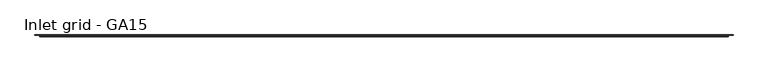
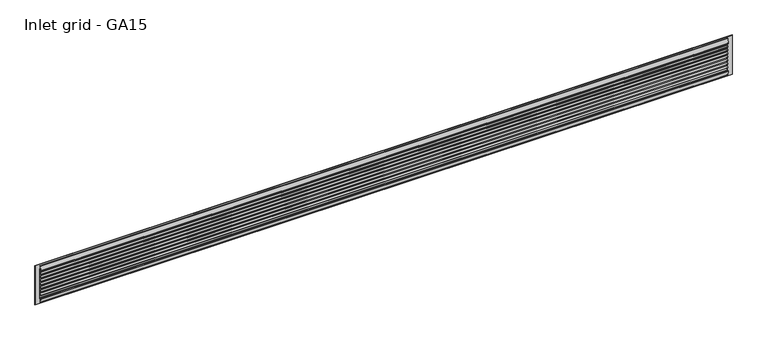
"""IFC4 building model written with IfcOpenShell, lengths in millimetres: proxy geometry, HVAC_Accessories_Emmeti_Grid-GA : Inlet grid - GA15."""

from ifc_helpers import new_model, si_unit, point, frame, frame_2d, origin, place, context, project, spatial, polyline, circle_curve, trimmed, segment, composite_curve, outline, extrude, source, transform, mapped, element, save


def inlet_grid_ga15_4a61f467(model_context):
    return source(origin(), model_context, "Body", "SweptSolid", [
        extrude(outline(composite_curve([segment(polyline([(-4.732363, 150.0), (0.0, 150.0), (0.0, 142.5976564), (-4.272988, 142.5976564)]), True, "CONTINUOUS"), segment(trimmed(circle_curve(frame_2d((-4.272988, 146.0976564)), 3.5), [point((-4.272988, 142.5976564))], [point((-7.772988, 146.0976564))], False, "CARTESIAN"), True, "CONTINUOUS"), segment(polyline([(-7.772988, 146.0976564), (-3.1350602, 163.4898854)]), True, "CONTINUOUS"), segment(trimmed(circle_curve(frame_2d((-1.9313102, 163.1688853)), 1.245815), [point((-3.1350602, 163.4898854))], [point((-1.0, 163.9963613))], False, "CARTESIAN"), True, "CONTINUOUS"), segment(polyline([(-1.0, 163.9963613), (-4.732363, 150.0)]), True, "CONTINUOUS")], self_intersect=False)), frame((-2555.0, 0.0, 0.0), z_axis=(1.0, 0.0, 0.0), x_axis=(0.0, 1.0, 0.0)), (0.0, 0.0, 1.0), 2835.0),
        extrude(outline(composite_curve([segment(polyline([(0.0, 127.5116343), (-6.0, 127.5116343)]), True, "CONTINUOUS"), segment(trimmed(circle_curve(frame_2d((-4.0, 127.5116343)), 2.0), [point((-6.0, 127.5116343))], [point((-5.6369786, 128.6606778))], False, "CARTESIAN"), True, "CONTINUOUS"), segment(trimmed(circle_curve(frame_2d((9.0945217, 118.5661561)), 17.8582326), [point((-5.6369786, 128.6606778))], [point((-1.0, 133.2976564))], False, "CARTESIAN"), True, "CONTINUOUS"), segment(polyline([(-1.0, 133.2976564), (0.0, 133.2976564), (0.0, 127.5116343)]), True, "CONTINUOUS")], self_intersect=False)), frame((-2555.0, 0.0, 0.0), z_axis=(1.0, 0.0, 0.0), x_axis=(0.0, 1.0, 0.0)), (0.0, 0.0, 1.0), 2835.0),
        extrude(outline(composite_curve([segment(polyline([(0.0, 112.4256122), (-6.0, 112.4256122)]), True, "CONTINUOUS"), segment(trimmed(circle_curve(frame_2d((-4.0, 112.4256122)), 2.0), [point((-6.0, 112.4256122))], [point((-5.6369786, 113.5746557))], False, "CARTESIAN"), True, "CONTINUOUS"), segment(trimmed(circle_curve(frame_2d((9.0945217, 103.480134)), 17.8582326), [point((-5.6369786, 113.5746557))], [point((-1.0, 118.2116343))], False, "CARTESIAN"), True, "CONTINUOUS"), segment(polyline([(-1.0, 118.2116343), (0.0, 118.2116343), (0.0, 112.4256122)]), True, "CONTINUOUS")], self_intersect=False)), frame((-2555.0, 0.0, 0.0), z_axis=(1.0, 0.0, 0.0), x_axis=(0.0, 1.0, 0.0)), (0.0, 0.0, 1.0), 2835.0),
        extrude(outline(composite_curve([segment(polyline([(0.0, 97.3395901), (-6.0, 97.3395901)]), True, "CONTINUOUS"), segment(trimmed(circle_curve(frame_2d((-4.0, 97.3395901)), 2.0), [point((-6.0, 97.3395901))], [point((-5.6369786, 98.4886335))], False, "CARTESIAN"), True, "CONTINUOUS"), segment(trimmed(circle_curve(frame_2d((9.0945217, 88.3941118)), 17.8582326), [point((-5.6369786, 98.4886335))], [point((-1.0, 103.1256122))], False, "CARTESIAN"), True, "CONTINUOUS"), segment(polyline([(-1.0, 103.1256122), (0.0, 103.1256122), (0.0, 97.3395901)]), True, "CONTINUOUS")], self_intersect=False)), frame((-2555.0, 0.0, 0.0), z_axis=(1.0, 0.0, 0.0), x_axis=(0.0, 1.0, 0.0)), (0.0, 0.0, 1.0), 2835.0),
        extrude(outline(composite_curve([segment(polyline([(0.0, 82.187813), (-6.0, 82.187813)]), True, "CONTINUOUS"), segment(trimmed(circle_curve(frame_2d((-4.0, 82.187813)), 2.0), [point((-6.0, 82.187813))], [point((-5.6369786, 83.3368565))], False, "CARTESIAN"), True, "CONTINUOUS"), segment(trimmed(circle_curve(frame_2d((9.0945217, 73.2423348)), 17.8582326), [point((-5.6369786, 83.3368565))], [point((-1.0, 87.9738351))], False, "CARTESIAN"), True, "CONTINUOUS"), segment(polyline([(-1.0, 87.9738351), (0.0, 87.9738351), (0.0, 82.187813)]), True, "CONTINUOUS")], self_intersect=False)), frame((-2555.0, 0.0, 0.0), z_axis=(1.0, 0.0, 0.0), x_axis=(0.0, 1.0, 0.0)), (0.0, 0.0, 1.0), 2835.0),
        extrude(outline(composite_curve([segment(polyline([(0.0, 67.1017909), (-6.0, 67.1017909)]), True, "CONTINUOUS"), segment(trimmed(circle_curve(frame_2d((-4.0, 67.1017909)), 2.0), [point((-6.0, 67.1017909))], [point((-5.6369786, 68.2508344))], False, "CARTESIAN"), True, "CONTINUOUS"), segment(trimmed(circle_curve(frame_2d((9.0945217, 58.1563127)), 17.8582326), [point((-5.6369786, 68.2508344))], [point((-1.0, 72.887813))], False, "CARTESIAN"), True, "CONTINUOUS"), segment(polyline([(-1.0, 72.887813), (0.0, 72.887813), (0.0, 67.1017909)]), True, "CONTINUOUS")], self_intersect=False)), frame((-2555.0, 0.0, 0.0), z_axis=(1.0, 0.0, 0.0), x_axis=(0.0, 1.0, 0.0)), (0.0, 0.0, 1.0), 2835.0),
        extrude(outline(composite_curve([segment(polyline([(0.0, 52.0157688), (-6.0, 52.0157688)]), True, "CONTINUOUS"), segment(trimmed(circle_curve(frame_2d((-4.0, 52.0157688)), 2.0), [point((-6.0, 52.0157688))], [point((-5.6369786, 53.1648122))], False, "CARTESIAN"), True, "CONTINUOUS"), segment(trimmed(circle_curve(frame_2d((9.0945217, 43.0702905)), 17.8582326), [point((-5.6369786, 53.1648122))], [point((-1.0, 57.8017909))], False, "CARTESIAN"), True, "CONTINUOUS"), segment(polyline([(-1.0, 57.8017909), (0.0, 57.8017909), (0.0, 52.0157688)]), True, "CONTINUOUS")], self_intersect=False)), frame((-2555.0, 0.0, 0.0), z_axis=(1.0, 0.0, 0.0), x_axis=(0.0, 1.0, 0.0)), (0.0, 0.0, 1.0), 2835.0),
        extrude(outline(composite_curve([segment(polyline([(0.0, 36.8639917), (-6.0, 36.8639917)]), True, "CONTINUOUS"), segment(trimmed(circle_curve(frame_2d((-4.0, 36.8639917)), 2.0), [point((-6.0, 36.8639917))], [point((-5.6369786, 38.0130352))], False, "CARTESIAN"), True, "CONTINUOUS"), segment(trimmed(circle_curve(frame_2d((9.0945217, 27.9185135)), 17.8582326), [point((-5.6369786, 38.0130352))], [point((-1.0, 42.6500138))], False, "CARTESIAN"), True, "CONTINUOUS"), segment(polyline([(-1.0, 42.6500138), (0.0, 42.6500138), (0.0, 36.8639917)]), True, "CONTINUOUS")], self_intersect=False)), frame((-2555.0, 0.0, 0.0), z_axis=(1.0, 0.0, 0.0), x_axis=(0.0, 1.0, 0.0)), (0.0, 0.0, 1.0), 2835.0),
        extrude(outline(composite_curve([segment(polyline([(0.0, 20.0), (-5.132363, 20.0), (-1.0, 4.5036387)]), True, "CONTINUOUS"), segment(trimmed(circle_curve(frame_2d((-1.9313102, 5.3311147)), 1.245815), [point((-1.0, 4.5036387))], [point((-3.1350602, 5.0101146))], False, "CARTESIAN"), True, "CONTINUOUS"), segment(polyline([(-3.1350602, 5.0101146), (-7.772988, 22.4023436)]), True, "CONTINUOUS"), segment(trimmed(circle_curve(frame_2d((-5.772988, 22.4023436)), 2.0), [point((-7.772988, 22.4023436))], [point((-5.772988, 24.4023436))], False, "CARTESIAN"), True, "CONTINUOUS"), segment(polyline([(-5.772988, 24.4023436), (0.0, 24.4023436), (0.0, 20.0)]), True, "CONTINUOUS")], self_intersect=False)), frame((-2555.0, 0.0, 0.0), z_axis=(1.0, 0.0, 0.0), x_axis=(0.0, 1.0, 0.0)), (0.0, 0.0, 1.0), 2835.0),
        extrude(outline(polyline([(170.0, 300.0), (170.0, -2575.0), (0.0, -2575.0), (0.0, 300.0), (170.0, 300.0)]), holes=[polyline([(150.0, 280.0), (20.0, 280.0), (20.0, -2555.0), (150.0, -2555.0), (150.0, 280.0)])]), frame((0.0, -1.0, 0.0), z_axis=(0.0, 1.0, 0.0), x_axis=(0.0, 0.0, 1.0)), (0.0, 0.0, 1.0), 1.0),
        extrude(outline(polyline([(280.0, 0.0), (280.0, -1.0), (-2555.0, -1.0), (-2555.0, 0.0), (280.0, 0.0)])), frame((0.0, 0.0, 24.4023436), z_axis=(0.0, 0.0, 1.0), x_axis=(1.0, 0.0, 0.0)), (0.0, 0.0, 1.0), 125.5976564),
    ])


if __name__ == "__main__":
    model = new_model("IFC4")
    model_context = context("Model", 3, world=origin())
    ifc_project = project(units=[si_unit("LENGTHUNIT", "METRE", prefix="MILLI")], contexts=[model_context])
    site = spatial("IfcSite", under=ifc_project)
    building = spatial("IfcBuilding", under=site)
    placement = place(None, origin())
    inlet_grid_ga15_shape = inlet_grid_ga15_4a61f467(model_context)
    element("IfcBuildingElementProxy", 1, Name="HVAC_Accessories_Emmeti_Grid-GA : Inlet grid - GA15", ObjectType="HVAC_Accessories_Emmeti_Grid-GA : Inlet grid - GA15", at=placement, inside=building, context=model_context, shape_type="MappedRepresentation", body=[
        mapped(inlet_grid_ga15_shape, transform((0.0, 0.0, 0.0), x_axis=(1.0, 0.0, 0.0), y_axis=(0.0, 1.0, 0.0), z_axis=(0.0, 0.0, 1.0))),
    ])
    save(model, "model.ifc")
